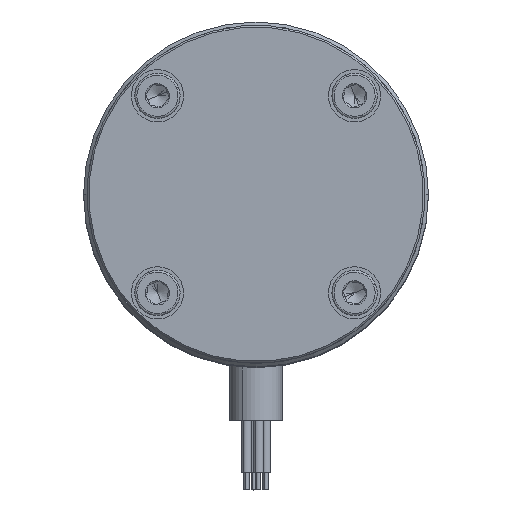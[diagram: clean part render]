
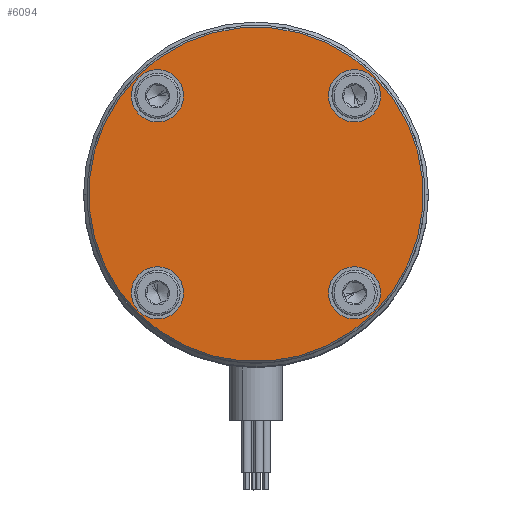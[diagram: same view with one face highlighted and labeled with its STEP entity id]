
A CAD part, top view. The second image highlights one B-rep face of the part: STEP entity #6094.
In plain terms, the highlighted planar face has unit normal (0, 0, 1) as drawn and (0, 0, -1) by its records, which use the part's own axes.
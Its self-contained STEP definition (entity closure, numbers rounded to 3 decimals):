
#1 = DIRECTION ( 'NONE',  ( 0., 0., -1. ) ) ;
#38 = VERTEX_POINT ( 'NONE', #7598 ) ;
#125 = DIRECTION ( 'NONE',  ( 0., 0., 1. ) ) ;
#197 = EDGE_CURVE ( 'NONE', #2681, #38, #3974, .T. ) ;
#216 = DIRECTION ( 'NONE',  ( 0., 0., -1. ) ) ;
#253 = VERTEX_POINT ( 'NONE', #4731 ) ;
#286 = CARTESIAN_POINT ( 'NONE',  ( 0., 0., 0. ) ) ;
#365 = DIRECTION ( 'NONE',  ( 0., 0., -1. ) ) ;
#459 = EDGE_CURVE ( 'NONE', #38, #2681, #6991, .T. ) ;
#537 = CARTESIAN_POINT ( 'NONE',  ( -48., 0., 0. ) ) ;
#617 = PLANE ( 'NONE',  #1430 ) ;
#627 = VERTEX_POINT ( 'NONE', #956 ) ;
#635 = DIRECTION ( 'NONE',  ( 0., 0., -1. ) ) ;
#746 = AXIS2_PLACEMENT_3D ( 'NONE', #5852, #1754, #1702 ) ;
#801 = AXIS2_PLACEMENT_3D ( 'NONE', #3042, #4364, #1090 ) ;
#887 = AXIS2_PLACEMENT_3D ( 'NONE', #4150, #1549, #2163 ) ;
#919 = AXIS2_PLACEMENT_3D ( 'NONE', #1290, #1, #7313 ) ;
#956 = CARTESIAN_POINT ( 'NONE',  ( 48., 0., 0. ) ) ;
#1012 = CARTESIAN_POINT ( 'NONE',  ( -40., 0., 0. ) ) ;
#1024 = ORIENTED_EDGE ( 'NONE', *, *, #7435, .F. ) ;
#1042 = VERTEX_POINT ( 'NONE', #8208 ) ;
#1090 = DIRECTION ( 'NONE',  ( -1., 0., 0. ) ) ;
#1091 = EDGE_LOOP ( 'NONE', ( #1024, #3461 ) ) ;
#1231 = CARTESIAN_POINT ( 'NONE',  ( -32.5, 0., 0. ) ) ;
#1287 = AXIS2_PLACEMENT_3D ( 'NONE', #286, #2217, #2180 ) ;
#1290 = CARTESIAN_POINT ( 'NONE',  ( 0., 40., 0. ) ) ;
#1430 = AXIS2_PLACEMENT_3D ( 'NONE', #6070, #125, #2789 ) ;
#1438 = CARTESIAN_POINT ( 'NONE',  ( -7.5, -40., 0. ) ) ;
#1503 = CARTESIAN_POINT ( 'NONE',  ( 40., 0., 0. ) ) ;
#1549 = DIRECTION ( 'NONE',  ( 0., 0., -1. ) ) ;
#1702 = DIRECTION ( 'NONE',  ( -1., 0., 0. ) ) ;
#1754 = DIRECTION ( 'NONE',  ( 0., 0., -1. ) ) ;
#1890 = EDGE_CURVE ( 'NONE', #5481, #3157, #3140, .T. ) ;
#1982 = CIRCLE ( 'NONE', #6799, 7.5 ) ;
#2163 = DIRECTION ( 'NONE',  ( 1., 0., 0. ) ) ;
#2180 = DIRECTION ( 'NONE',  ( 1., 0., 0. ) ) ;
#2217 = DIRECTION ( 'NONE',  ( 0., 0., -1. ) ) ;
#2261 = EDGE_CURVE ( 'NONE', #1042, #3720, #5890, .T. ) ;
#2337 = CARTESIAN_POINT ( 'NONE',  ( 0., -40., 0. ) ) ;
#2590 = AXIS2_PLACEMENT_3D ( 'NONE', #1012, #4250, #2888 ) ;
#2636 = ORIENTED_EDGE ( 'NONE', *, *, #4012, .F. ) ;
#2664 = FACE_BOUND ( 'NONE', #2905, .T. ) ;
#2675 = CARTESIAN_POINT ( 'NONE',  ( 0., -40., 0. ) ) ;
#2681 = VERTEX_POINT ( 'NONE', #3755 ) ;
#2789 = DIRECTION ( 'NONE',  ( 1., 0., 0. ) ) ;
#2827 = CIRCLE ( 'NONE', #887, 48. ) ;
#2888 = DIRECTION ( 'NONE',  ( -1., 0., 0. ) ) ;
#2905 = EDGE_LOOP ( 'NONE', ( #8041, #2636 ) ) ;
#3042 = CARTESIAN_POINT ( 'NONE',  ( 0., 40., 0. ) ) ;
#3140 = CIRCLE ( 'NONE', #7133, 7.5 ) ;
#3157 = VERTEX_POINT ( 'NONE', #1231 ) ;
#3290 = CARTESIAN_POINT ( 'NONE',  ( 32.5, 0., 0. ) ) ;
#3338 = CARTESIAN_POINT ( 'NONE',  ( -47.5, 0., 0. ) ) ;
#3461 = ORIENTED_EDGE ( 'NONE', *, *, #2261, .F. ) ;
#3489 = CIRCLE ( 'NONE', #1287, 48. ) ;
#3661 = DIRECTION ( 'NONE',  ( -1., 0., 0. ) ) ;
#3682 = DIRECTION ( 'NONE',  ( -1., 0., 0. ) ) ;
#3712 = ORIENTED_EDGE ( 'NONE', *, *, #8312, .T. ) ;
#3720 = VERTEX_POINT ( 'NONE', #1438 ) ;
#3755 = CARTESIAN_POINT ( 'NONE',  ( 7.5, 40., 0. ) ) ;
#3798 = ORIENTED_EDGE ( 'NONE', *, *, #4312, .F. ) ;
#3918 = FACE_BOUND ( 'NONE', #8013, .T. ) ;
#3974 = CIRCLE ( 'NONE', #919, 7.5 ) ;
#4012 = EDGE_CURVE ( 'NONE', #253, #7429, #5981, .T. ) ;
#4086 = FACE_OUTER_BOUND ( 'NONE', #6965, .T. ) ;
#4087 = VERTEX_POINT ( 'NONE', #537 ) ;
#4150 = CARTESIAN_POINT ( 'NONE',  ( 0., 0., 0. ) ) ;
#4250 = DIRECTION ( 'NONE',  ( 0., 0., -1. ) ) ;
#4253 = ORIENTED_EDGE ( 'NONE', *, *, #197, .F. ) ;
#4267 = EDGE_CURVE ( 'NONE', #7429, #253, #1982, .T. ) ;
#4312 = EDGE_CURVE ( 'NONE', #3157, #5481, #6728, .T. ) ;
#4364 = DIRECTION ( 'NONE',  ( 0., 0., -1. ) ) ;
#4731 = CARTESIAN_POINT ( 'NONE',  ( 47.5, 0., 0. ) ) ;
#5481 = VERTEX_POINT ( 'NONE', #3338 ) ;
#5720 = DIRECTION ( 'NONE',  ( 0., 0., -1. ) ) ;
#5800 = EDGE_CURVE ( 'NONE', #4087, #627, #3489, .T. ) ;
#5852 = CARTESIAN_POINT ( 'NONE',  ( 40., 0., 0. ) ) ;
#5890 = CIRCLE ( 'NONE', #7539, 7.5 ) ;
#5981 = CIRCLE ( 'NONE', #746, 7.5 ) ;
#5992 = DIRECTION ( 'NONE',  ( -1., 0., 0. ) ) ;
#6070 = CARTESIAN_POINT ( 'NONE',  ( 0., 0., 0. ) ) ;
#6094 = ADVANCED_FACE ( 'NONE', ( #4086, #3918, #6718, #7817, #2664 ), #617, .F. ) ;
#6469 = ORIENTED_EDGE ( 'NONE', *, *, #1890, .F. ) ;
#6627 = EDGE_LOOP ( 'NONE', ( #6469, #3798 ) ) ;
#6715 = ORIENTED_EDGE ( 'NONE', *, *, #5800, .T. ) ;
#6718 = FACE_BOUND ( 'NONE', #6627, .T. ) ;
#6728 = CIRCLE ( 'NONE', #2590, 7.5 ) ;
#6799 = AXIS2_PLACEMENT_3D ( 'NONE', #1503, #216, #3661 ) ;
#6965 = EDGE_LOOP ( 'NONE', ( #3712, #6715 ) ) ;
#6991 = CIRCLE ( 'NONE', #801, 7.5 ) ;
#7048 = ORIENTED_EDGE ( 'NONE', *, *, #459, .F. ) ;
#7133 = AXIS2_PLACEMENT_3D ( 'NONE', #8434, #5720, #8484 ) ;
#7313 = DIRECTION ( 'NONE',  ( -1., 0., 0. ) ) ;
#7429 = VERTEX_POINT ( 'NONE', #3290 ) ;
#7435 = EDGE_CURVE ( 'NONE', #3720, #1042, #8168, .T. ) ;
#7539 = AXIS2_PLACEMENT_3D ( 'NONE', #2337, #365, #3682 ) ;
#7598 = CARTESIAN_POINT ( 'NONE',  ( -7.5, 40., 0. ) ) ;
#7817 = FACE_BOUND ( 'NONE', #1091, .T. ) ;
#7917 = AXIS2_PLACEMENT_3D ( 'NONE', #2675, #635, #5992 ) ;
#8013 = EDGE_LOOP ( 'NONE', ( #7048, #4253 ) ) ;
#8041 = ORIENTED_EDGE ( 'NONE', *, *, #4267, .F. ) ;
#8168 = CIRCLE ( 'NONE', #7917, 7.5 ) ;
#8208 = CARTESIAN_POINT ( 'NONE',  ( 7.5, -40., 0. ) ) ;
#8312 = EDGE_CURVE ( 'NONE', #627, #4087, #2827, .T. ) ;
#8434 = CARTESIAN_POINT ( 'NONE',  ( -40., 0., 0. ) ) ;
#8484 = DIRECTION ( 'NONE',  ( -1., 0., 0. ) ) ;
